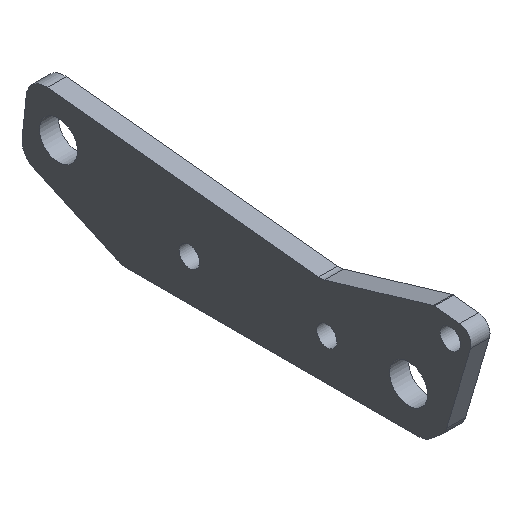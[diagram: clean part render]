
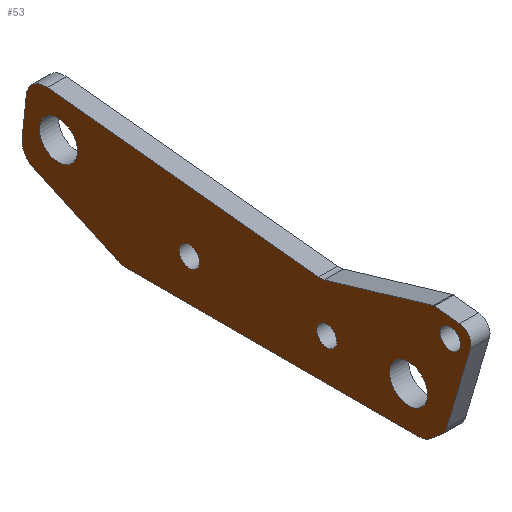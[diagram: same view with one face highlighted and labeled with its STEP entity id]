
A CAD part, isometric view. The second image highlights one B-rep face of the part: STEP entity #53.
In plain terms, the highlighted planar face has unit normal (-1, 0, 0).
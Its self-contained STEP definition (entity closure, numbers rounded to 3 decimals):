
#53=ADVANCED_FACE('',(#260,#262,#264,#266,#268,#270),#272,.F.);
#260=FACE_BOUND('',#261,.T.);
#261=EDGE_LOOP('',(#451,#452,#453,#454,#455,#456,#457,#458,#459,#460,#461,#462,#463,
#464,#465,#466));
#262=FACE_BOUND('',#263,.T.);
#263=EDGE_LOOP('',(#467));
#264=FACE_BOUND('',#265,.T.);
#265=EDGE_LOOP('',(#468));
#266=FACE_BOUND('',#267,.T.);
#267=EDGE_LOOP('',(#469));
#268=FACE_BOUND('',#269,.T.);
#269=EDGE_LOOP('',(#470));
#270=FACE_BOUND('',#271,.T.);
#271=EDGE_LOOP('',(#471));
#272=PLANE('',#273);
#273=AXIS2_PLACEMENT_3D('',#274,#275,#276);
#274=CARTESIAN_POINT('',(0.,0.,0.));
#275=DIRECTION('',(1.,0.,0.));
#276=DIRECTION('',(0.,1.,0.));
#451=ORIENTED_EDGE('',*,*,#567,.F.);
#452=ORIENTED_EDGE('',*,*,#568,.F.);
#453=ORIENTED_EDGE('',*,*,#569,.F.);
#454=ORIENTED_EDGE('',*,*,#570,.F.);
#455=ORIENTED_EDGE('',*,*,#571,.F.);
#456=ORIENTED_EDGE('',*,*,#572,.F.);
#457=ORIENTED_EDGE('',*,*,#573,.F.);
#458=ORIENTED_EDGE('',*,*,#574,.F.);
#459=ORIENTED_EDGE('',*,*,#575,.F.);
#460=ORIENTED_EDGE('',*,*,#576,.F.);
#461=ORIENTED_EDGE('',*,*,#577,.F.);
#462=ORIENTED_EDGE('',*,*,#578,.F.);
#463=ORIENTED_EDGE('',*,*,#579,.F.);
#464=ORIENTED_EDGE('',*,*,#580,.F.);
#465=ORIENTED_EDGE('',*,*,#581,.F.);
#466=ORIENTED_EDGE('',*,*,#582,.F.);
#467=ORIENTED_EDGE('',*,*,#583,.T.);
#468=ORIENTED_EDGE('',*,*,#584,.T.);
#469=ORIENTED_EDGE('',*,*,#585,.T.);
#470=ORIENTED_EDGE('',*,*,#586,.T.);
#471=ORIENTED_EDGE('',*,*,#587,.T.);
#567=EDGE_CURVE('',#625,#626,#627,.T.);
#568=EDGE_CURVE('',#628,#625,#629,.T.);
#569=EDGE_CURVE('',#630,#628,#631,.T.);
#570=EDGE_CURVE('',#632,#630,#633,.T.);
#571=EDGE_CURVE('',#634,#632,#635,.T.);
#572=EDGE_CURVE('',#636,#634,#637,.T.);
#573=EDGE_CURVE('',#638,#636,#639,.T.);
#574=EDGE_CURVE('',#640,#638,#641,.T.);
#575=EDGE_CURVE('',#642,#640,#643,.T.);
#576=EDGE_CURVE('',#644,#642,#645,.T.);
#577=EDGE_CURVE('',#646,#644,#647,.T.);
#578=EDGE_CURVE('',#648,#646,#649,.T.);
#579=EDGE_CURVE('',#650,#648,#651,.T.);
#580=EDGE_CURVE('',#652,#650,#653,.T.);
#581=EDGE_CURVE('',#654,#652,#655,.T.);
#582=EDGE_CURVE('',#626,#654,#656,.T.);
#583=EDGE_CURVE('',#657,#657,#658,.T.);
#584=EDGE_CURVE('',#659,#659,#660,.T.);
#585=EDGE_CURVE('',#661,#661,#662,.T.);
#586=EDGE_CURVE('',#663,#663,#664,.T.);
#587=EDGE_CURVE('',#665,#665,#666,.T.);
#625=VERTEX_POINT('',#725);
#626=VERTEX_POINT('',#726);
#627=CIRCLE('',#727,30.);
#628=VERTEX_POINT('',#731);
#629=LINE('',#732,#733);
#630=VERTEX_POINT('',#735);
#631=CIRCLE('',#736,30.);
#632=VERTEX_POINT('',#740);
#633=LINE('',#741,#742);
#634=VERTEX_POINT('',#744);
#635=CIRCLE('',#745,30.);
#636=VERTEX_POINT('',#749);
#637=LINE('',#750,#751);
#638=VERTEX_POINT('',#753);
#639=CIRCLE('',#754,25.);
#640=VERTEX_POINT('',#758);
#641=LINE('',#759,#760);
#642=VERTEX_POINT('',#762);
#643=CIRCLE('',#763,25.);
#644=VERTEX_POINT('',#767);
#645=LINE('',#768,#769);
#646=VERTEX_POINT('',#771);
#647=CIRCLE('',#772,20.);
#648=VERTEX_POINT('',#776);
#649=LINE('',#777,#778);
#650=VERTEX_POINT('',#780);
#651=CIRCLE('',#781,5.);
#652=VERTEX_POINT('',#785);
#653=LINE('',#786,#787);
#654=VERTEX_POINT('',#789);
#655=CIRCLE('',#790,25.);
#656=LINE('',#794,#795);
#657=VERTEX_POINT('',#797);
#658=CIRCLE('',#798,30.05);
#659=VERTEX_POINT('',#802);
#660=CIRCLE('',#803,30.05);
#661=VERTEX_POINT('',#807);
#662=CIRCLE('',#808,16.05);
#663=VERTEX_POINT('',#812);
#664=CIRCLE('',#813,16.05);
#665=VERTEX_POINT('',#817);
#666=CIRCLE('',#818,16.05);
#725=CARTESIAN_POINT('',(0.,630.358,157.106));
#726=CARTESIAN_POINT('',(0.,597.387,183.805));
#727=AXIS2_PLACEMENT_3D('',#728,#729,#730);
#728=CARTESIAN_POINT('',(0.,600.523,153.97));
#729=DIRECTION('',(1.,0.,0.));
#730=DIRECTION('',(0.,0.995,0.105));
#731=CARTESIAN_POINT('',(0.,636.986,94.05));
#732=CARTESIAN_POINT('',(0.,636.986,94.05));
#733=VECTOR('',#734,1.);
#734=DIRECTION('',(0.,-0.105,0.995));
#735=CARTESIAN_POINT('',(0.,619.591,63.615));
#736=AXIS2_PLACEMENT_3D('',#737,#738,#739);
#737=CARTESIAN_POINT('',(0.,607.15,90.914));
#738=DIRECTION('',(1.,0.,0.));
#739=DIRECTION('',(0.,0.415,-0.91));
#740=CARTESIAN_POINT('',(0.,485.927,2.701));
#741=CARTESIAN_POINT('',(0.,485.927,2.701));
#742=VECTOR('',#743,1.);
#743=DIRECTION('',(0.,0.91,0.415));
#744=CARTESIAN_POINT('',(0.,473.486,0.));
#745=AXIS2_PLACEMENT_3D('',#746,#747,#748);
#746=CARTESIAN_POINT('',(0.,473.486,30.));
#747=DIRECTION('',(1.,0.,0.));
#748=DIRECTION('',(0.,0.,-1.));
#749=CARTESIAN_POINT('',(0.,9.099,0.));
#750=CARTESIAN_POINT('',(0.,9.099,0.));
#751=VECTOR('',#752,1.);
#752=DIRECTION('',(0.,1.,0.));
#753=CARTESIAN_POINT('',(0.,-6.97,5.849));
#754=AXIS2_PLACEMENT_3D('',#755,#756,#757);
#755=CARTESIAN_POINT('',(0.,9.099,25.));
#756=DIRECTION('',(1.,0.,0.));
#757=DIRECTION('',(0.,-0.643,-0.766));
#758=CARTESIAN_POINT('',(0.,-24.878,20.875));
#759=CARTESIAN_POINT('',(0.,-24.878,20.875));
#760=VECTOR('',#761,1.);
#761=DIRECTION('',(0.,0.766,-0.643));
#762=CARTESIAN_POINT('',(0.,-32.779,32.926));
#763=AXIS2_PLACEMENT_3D('',#764,#765,#766);
#764=CARTESIAN_POINT('',(0.,-8.808,40.026));
#765=DIRECTION('',(1.,0.,0.));
#766=DIRECTION('',(0.,-0.959,-0.284));
#767=CARTESIAN_POINT('',(0.,-70.674,160.86));
#768=CARTESIAN_POINT('',(0.,-70.674,160.86));
#769=VECTOR('',#770,1.);
#770=DIRECTION('',(0.,0.284,-0.959));
#771=CARTESIAN_POINT('',(0.,-53.589,186.43));
#772=AXIS2_PLACEMENT_3D('',#773,#774,#775);
#773=CARTESIAN_POINT('',(0.,-51.498,166.54));
#774=DIRECTION('',(1.,0.,0.));
#775=DIRECTION('',(0.,-0.105,0.995));
#776=CARTESIAN_POINT('',(0.,-13.849,190.607));
#777=CARTESIAN_POINT('',(0.,-13.849,190.607));
#778=VECTOR('',#779,1.);
#779=DIRECTION('',(0.,-0.995,-0.105));
#780=CARTESIAN_POINT('',(0.,-11.907,190.429));
#781=AXIS2_PLACEMENT_3D('',#782,#783,#784);
#782=CARTESIAN_POINT('',(0.,-13.327,185.635));
#783=DIRECTION('',(1.,0.,0.));
#784=DIRECTION('',(0.,0.284,0.959));
#785=CARTESIAN_POINT('',(0.,159.401,139.685));
#786=CARTESIAN_POINT('',(0.,159.401,139.685));
#787=VECTOR('',#788,1.);
#788=DIRECTION('',(0.,-0.959,0.284));
#789=CARTESIAN_POINT('',(0.,169.115,138.792));
#790=AXIS2_PLACEMENT_3D('',#791,#792,#793);
#791=CARTESIAN_POINT('',(0.,166.502,163.655));
#792=DIRECTION('',(-1.,0.,0.));
#793=DIRECTION('',(0.,0.105,-0.995));
#794=CARTESIAN_POINT('',(0.,597.387,183.805));
#795=VECTOR('',#796,1.);
#796=DIRECTION('',(0.,-0.995,-0.105));
#797=CARTESIAN_POINT('',(0.,57.102,64.05));
#798=AXIS2_PLACEMENT_3D('',#799,#800,#801);
#799=CARTESIAN_POINT('',(0.,27.052,64.05));
#800=DIRECTION('',(1.,0.,0.));
#801=DIRECTION('',(0.,1.,0.));
#802=CARTESIAN_POINT('',(0.,609.602,120.55));
#803=AXIS2_PLACEMENT_3D('',#804,#805,#806);
#804=CARTESIAN_POINT('',(0.,579.552,120.55));
#805=DIRECTION('',(1.,0.,0.));
#806=DIRECTION('',(0.,1.,0.));
#807=CARTESIAN_POINT('',(0.,-22.898,158.55));
#808=AXIS2_PLACEMENT_3D('',#809,#810,#811);
#809=CARTESIAN_POINT('',(0.,-38.948,158.55));
#810=DIRECTION('',(1.,0.,0.));
#811=DIRECTION('',(0.,1.,0.));
#812=CARTESIAN_POINT('',(0.,172.102,65.05));
#813=AXIS2_PLACEMENT_3D('',#814,#815,#816);
#814=CARTESIAN_POINT('',(0.,156.052,65.05));
#815=DIRECTION('',(1.,0.,0.));
#816=DIRECTION('',(0.,1.,0.));
#817=CARTESIAN_POINT('',(0.,389.202,65.05));
#818=AXIS2_PLACEMENT_3D('',#819,#820,#821);
#819=CARTESIAN_POINT('',(0.,373.152,65.05));
#820=DIRECTION('',(1.,0.,0.));
#821=DIRECTION('',(0.,1.,0.));
